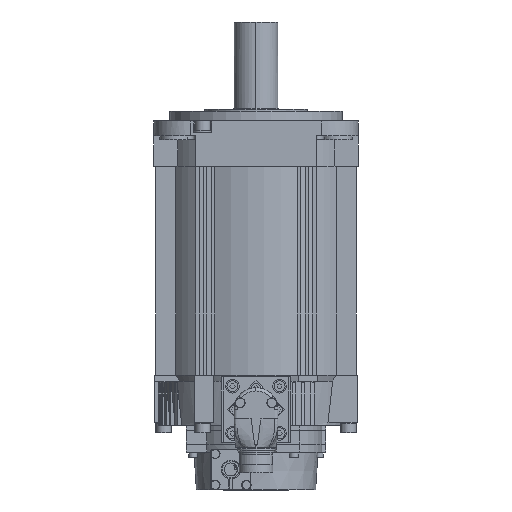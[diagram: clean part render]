
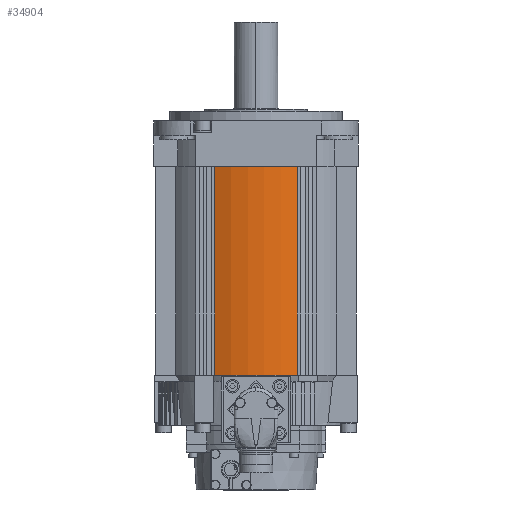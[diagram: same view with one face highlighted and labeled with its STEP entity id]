
A CAD part, front view. The second image highlights one B-rep face of the part: STEP entity #34904.
In plain terms, the highlighted cylindrical face has radius 64 mm (diameter 128 mm), a partial arc.
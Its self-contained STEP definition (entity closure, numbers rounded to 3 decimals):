
#34137 = VERTEX_POINT ( 'NONE', #37656 ) ;
#34142 = EDGE_CURVE ( 'NONE', #34137, #34145, #37653, .T. ) ;
#34145 = VERTEX_POINT ( 'NONE', #37754 ) ;
#34870 = EDGE_CURVE ( 'NONE', #34910, #34914, #40289, .T. ) ;
#34904 = ADVANCED_FACE ( 'NONE', ( #40423 ), #40498, .T. ) ;
#34906 = EDGE_LOOP ( 'NONE', ( #34907, #34911, #34912, #34915 ) ) ;
#34907 = ORIENTED_EDGE ( 'NONE', *, *, #34909, .F. ) ;
#34909 = EDGE_CURVE ( 'NONE', #34145, #34910, #40499, .T. ) ;
#34910 = VERTEX_POINT ( 'NONE', #40484 ) ;
#34911 = ORIENTED_EDGE ( 'NONE', *, *, #34142, .F. ) ;
#34912 = ORIENTED_EDGE ( 'NONE', *, *, #34913, .F. ) ;
#34913 = EDGE_CURVE ( 'NONE', #34914, #34137, #40476, .T. ) ;
#34914 = VERTEX_POINT ( 'NONE', #40469 ) ;
#34915 = ORIENTED_EDGE ( 'NONE', *, *, #34870, .F. ) ;
#37653 = CIRCLE ( 'NONE', #37759, 64. ) ;
#37656 = CARTESIAN_POINT ( 'NONE',  ( 26.3, -58.346, -162. ) ) ;
#37754 = CARTESIAN_POINT ( 'NONE',  ( -26.3, -58.346, -162. ) ) ;
#37756 = DIRECTION ( 'NONE',  ( 1., 0., 0. ) ) ;
#37757 = DIRECTION ( 'NONE',  ( 0., 0., -1. ) ) ;
#37758 = CARTESIAN_POINT ( 'NONE',  ( 0., 0., -162. ) ) ;
#37759 = AXIS2_PLACEMENT_3D ( 'NONE', #37758, #37757, #37756 ) ;
#40282 = DIRECTION ( 'NONE',  ( 1., 0., 0. ) ) ;
#40284 = DIRECTION ( 'NONE',  ( 0., 0., 1. ) ) ;
#40285 = CARTESIAN_POINT ( 'NONE',  ( 0., 0., -29. ) ) ;
#40287 = AXIS2_PLACEMENT_3D ( 'NONE', #40285, #40284, #40282 ) ;
#40289 = CIRCLE ( 'NONE', #40287, 64. ) ;
#40423 = FACE_OUTER_BOUND ( 'NONE', #34906, .T. ) ;
#40469 = CARTESIAN_POINT ( 'NONE',  ( 26.3, -58.346, -29. ) ) ;
#40471 = DIRECTION ( 'NONE',  ( 0., 0., -1. ) ) ;
#40473 = VECTOR ( 'NONE', #40471, 1000. ) ;
#40474 = CARTESIAN_POINT ( 'NONE',  ( 26.3, -58.346, -343.019 ) ) ;
#40476 = LINE ( 'NONE', #40474, #40473 ) ;
#40484 = CARTESIAN_POINT ( 'NONE',  ( -26.3, -58.346, -29. ) ) ;
#40485 = DIRECTION ( 'NONE',  ( 0., 0., 1. ) ) ;
#40487 = VECTOR ( 'NONE', #40485, 1000. ) ;
#40489 = CARTESIAN_POINT ( 'NONE',  ( -26.3, -58.346, -343.019 ) ) ;
#40495 = DIRECTION ( 'NONE',  ( 1., 0., 0. ) ) ;
#40496 = DIRECTION ( 'NONE',  ( 0., 0., 1. ) ) ;
#40497 = AXIS2_PLACEMENT_3D ( 'NONE', #40502, #40496, #40495 ) ;
#40498 = CYLINDRICAL_SURFACE ( 'NONE', #40497, 64. ) ;
#40499 = LINE ( 'NONE', #40489, #40487 ) ;
#40502 = CARTESIAN_POINT ( 'NONE',  ( 0., 0., -343.019 ) ) ;
